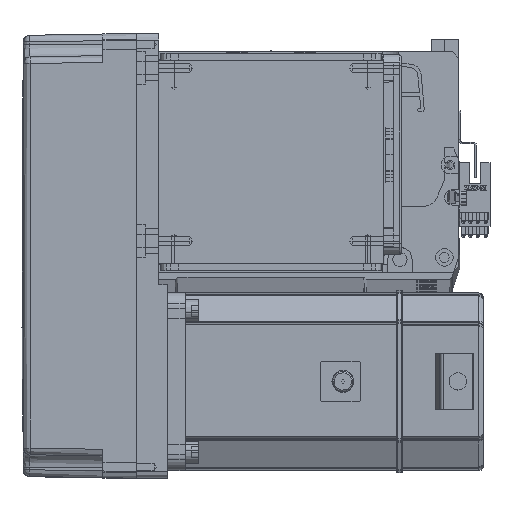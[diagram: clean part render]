
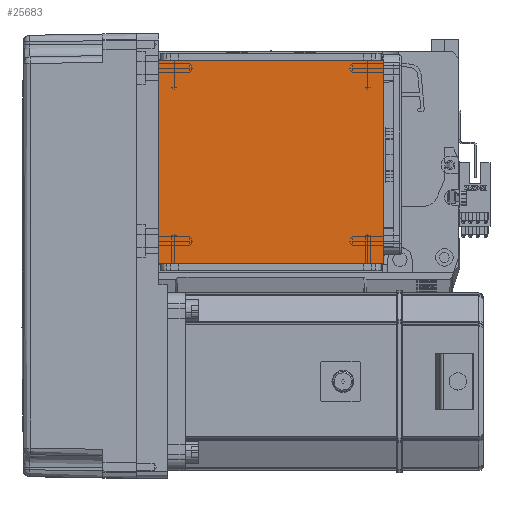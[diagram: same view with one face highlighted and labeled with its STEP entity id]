
A CAD part, top view. The second image highlights one B-rep face of the part: STEP entity #25683.
In plain terms, the highlighted planar face has unit normal (0, 0, 1).
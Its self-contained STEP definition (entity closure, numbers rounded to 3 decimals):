
#374 = VERTEX_POINT ( 'NONE', #29524 ) ;
#914 = CARTESIAN_POINT ( 'NONE',  ( -50.5, 111.5, 115. ) ) ;
#3027 = FACE_OUTER_BOUND ( 'NONE', #31119, .T. ) ;
#4166 = AXIS2_PLACEMENT_3D ( 'NONE', #41689, #41919, #14425 ) ;
#4344 = PLANE ( 'NONE',  #4166 ) ;
#5557 = VECTOR ( 'NONE', #18196, 1000. ) ;
#11973 = CARTESIAN_POINT ( 'NONE',  ( -70.004, 111.5, 115. ) ) ;
#12179 = DIRECTION ( 'NONE',  ( -1., 0., 0. ) ) ;
#12481 = LINE ( 'NONE', #17045, #52435 ) ;
#12938 = ORIENTED_EDGE ( 'NONE', *, *, #67128, .F. ) ;
#14425 = DIRECTION ( 'NONE',  ( 1., 0., 0. ) ) ;
#17045 = CARTESIAN_POINT ( 'NONE',  ( -70.004, 20., 115. ) ) ;
#18196 = DIRECTION ( 'NONE',  ( 0., 1., 0. ) ) ;
#21992 = EDGE_CURVE ( 'NONE', #32606, #374, #58913, .T. ) ;
#23185 = VERTEX_POINT ( 'NONE', #44654 ) ;
#25683 = ADVANCED_FACE ( 'NONE', ( #3027 ), #4344, .T. ) ;
#29524 = CARTESIAN_POINT ( 'NONE',  ( 50.5, 111.5, 115. ) ) ;
#31119 = EDGE_LOOP ( 'NONE', ( #49954, #37762, #12938, #54454 ) ) ;
#32606 = VERTEX_POINT ( 'NONE', #65054 ) ;
#33937 = LINE ( 'NONE', #45601, #53107 ) ;
#37762 = ORIENTED_EDGE ( 'NONE', *, *, #59600, .T. ) ;
#41689 = CARTESIAN_POINT ( 'NONE',  ( 0., 0., 115. ) ) ;
#41919 = DIRECTION ( 'NONE',  ( 0., 0., 1. ) ) ;
#42575 = VERTEX_POINT ( 'NONE', #914 ) ;
#44654 = CARTESIAN_POINT ( 'NONE',  ( -50.5, 20., 115. ) ) ;
#45372 = DIRECTION ( 'NONE',  ( 0., -1., 0. ) ) ;
#45601 = CARTESIAN_POINT ( 'NONE',  ( -50.5, 122., 115. ) ) ;
#49954 = ORIENTED_EDGE ( 'NONE', *, *, #51328, .F. ) ;
#51328 = EDGE_CURVE ( 'NONE', #42575, #374, #58493, .T. ) ;
#52435 = VECTOR ( 'NONE', #12179, 1000. ) ;
#53107 = VECTOR ( 'NONE', #45372, 1000. ) ;
#54454 = ORIENTED_EDGE ( 'NONE', *, *, #21992, .T. ) ;
#54787 = CARTESIAN_POINT ( 'NONE',  ( 50.5, 122., 115. ) ) ;
#56810 = VECTOR ( 'NONE', #60180, 1000. ) ;
#58493 = LINE ( 'NONE', #11973, #56810 ) ;
#58913 = LINE ( 'NONE', #54787, #5557 ) ;
#59600 = EDGE_CURVE ( 'NONE', #42575, #23185, #33937, .T. ) ;
#60180 = DIRECTION ( 'NONE',  ( 1., 0., 0. ) ) ;
#65054 = CARTESIAN_POINT ( 'NONE',  ( 50.5, 20., 115. ) ) ;
#67128 = EDGE_CURVE ( 'NONE', #32606, #23185, #12481, .T. ) ;
